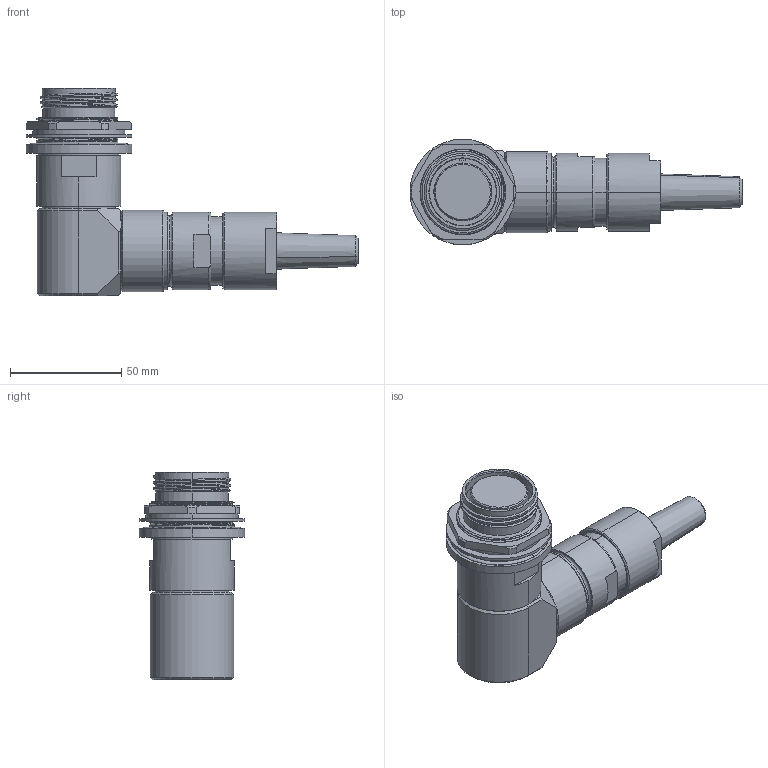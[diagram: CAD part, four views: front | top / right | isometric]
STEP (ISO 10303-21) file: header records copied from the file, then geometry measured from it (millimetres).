
FILE_DESCRIPTION (( 'STEP AP214' ), '1' );
FILE_NAME ('QLINK90-RJTX-21XX-SXXX.STEP', '2025-10-22T15:46:35', ( '' ), ( '' ), 'SwSTEP 2.0', 'SolidWorks 2024', '' );
FILE_SCHEMA (( 'AUTOMOTIVE_DESIGN' ));
Length unit declared in the file: millimetre
Products named in the file (1): QLINK90-RJTX-21XX-SXXX
Bounding box: 148.92 x 47.37 x 93.22 mm (x, y, z)
Volume: 174705.8 mm3; surface area: 37592.9 mm2
Topology: 2 solids, 4 shells, 285 faces, 722 edges, 466 vertices
Faces by surface type: cylinder 87, plane 74, cone 59, bspline 42, torus 23
Entity records: 21245 total; most frequent: CARTESIAN_POINT 14847, ORIENTED_EDGE 1444, DIRECTION 1224, EDGE_CURVE 722, AXIS2_PLACEMENT_3D 495, VERTEX_POINT 466, EDGE_LOOP 316, ADVANCED_FACE 285
